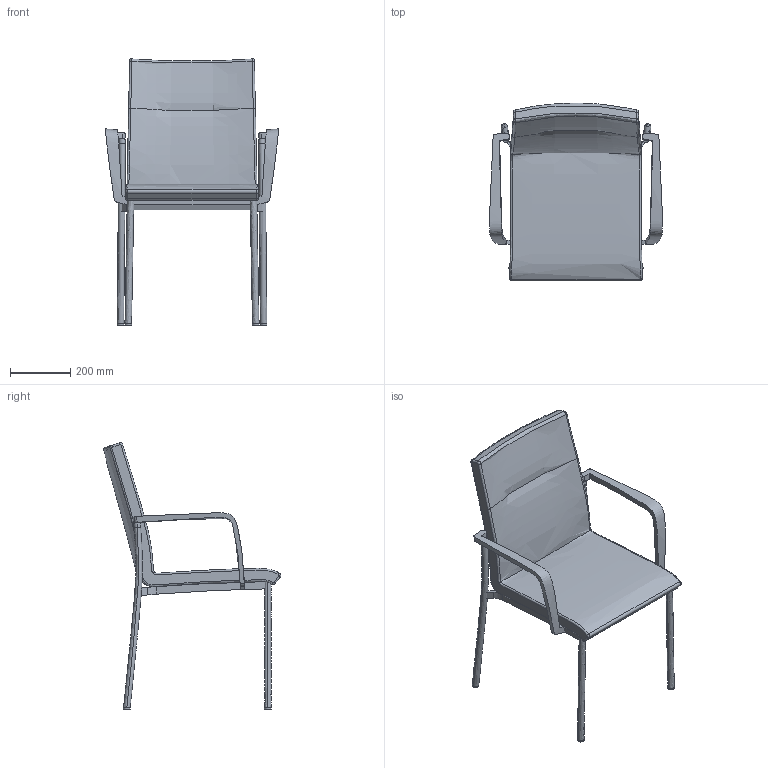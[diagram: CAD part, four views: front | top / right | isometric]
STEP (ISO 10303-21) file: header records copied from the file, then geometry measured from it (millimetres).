
FILE_DESCRIPTION(/* description */ (''),/* implementation_level */ '2;1');
FILE_NAME(/* name */ 'SEANCE~1',/* time_stamp */ '2017-01-03T13:19:01+01:00',/* author */ (''),/* organization */ (''),/* preprocessor_version */ 'ST-DEVELOPER v15',/* originating_system */ '',/* authorisation */ '');
FILE_SCHEMA (('CONFIG_CONTROL_DESIGN'));
Length unit declared in the file: millimetre
Products named in the file (1): Document
Bounding box: 574.98 x 590.63 x 885.26 mm (x, y, z)
Volume: 18152450.4 mm3; surface area: 1360502.4 mm2
Topology: 3 solids, 14 shells, 109 faces, 275 edges, 182 vertices
Faces by surface type: bspline 99, plane 10
Entity records: 11232 total; most frequent: CARTESIAN_POINT 9528, ORIENTED_EDGE 504, EDGE_CURVE 272, B_SPLINE_CURVE_WITH_KNOTS 210, VERTEX_POINT 176, ADVANCED_FACE 109, FACE_OUTER_BOUND 109, EDGE_LOOP 109
